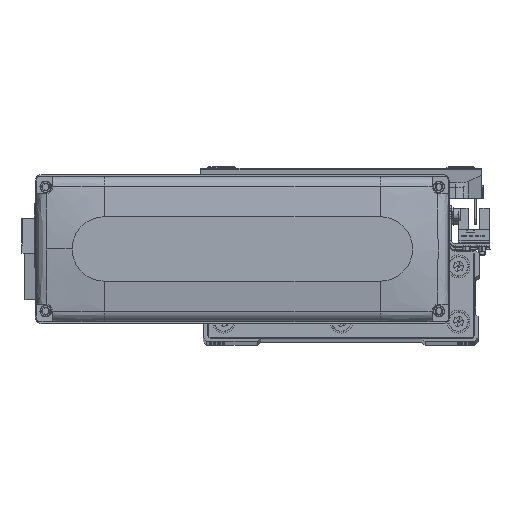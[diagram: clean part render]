
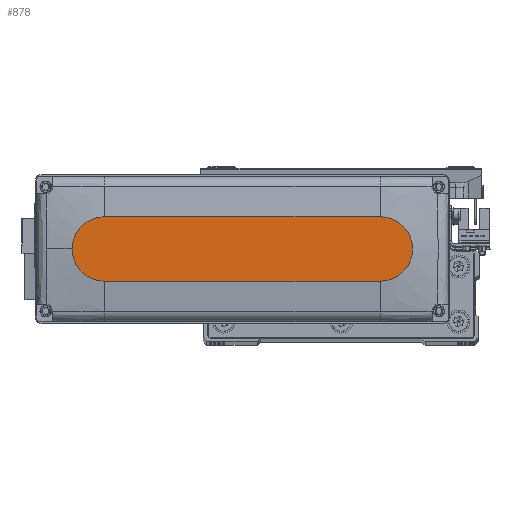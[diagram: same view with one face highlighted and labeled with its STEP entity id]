
A CAD part, top view. The second image highlights one B-rep face of the part: STEP entity #878.
In plain terms, the highlighted planar face has unit normal (0, 0, 1).
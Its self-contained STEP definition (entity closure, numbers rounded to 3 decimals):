
#339 = VERTEX_POINT ( 'NONE', #31980 ) ;
#878 = ADVANCED_FACE ( 'NONE', ( #43186 ), #9904, .T. ) ;
#1810 = VERTEX_POINT ( 'NONE', #7754 ) ;
#2678 = DIRECTION ( 'NONE',  ( 1., 0., 0. ) ) ;
#3308 = AXIS2_PLACEMENT_3D ( 'NONE', #30711, #23752, #38608 ) ;
#4615 = VERTEX_POINT ( 'NONE', #18644 ) ;
#5675 = EDGE_CURVE ( 'NONE', #4615, #1810, #14792, .T. ) ;
#7754 = CARTESIAN_POINT ( 'NONE',  ( 60., 14., 28.5 ) ) ;
#9904 = PLANE ( 'NONE',  #46043 ) ;
#10234 = CIRCLE ( 'NONE', #3308, 14. ) ;
#11250 = CARTESIAN_POINT ( 'NONE',  ( -60., 14., 28.5 ) ) ;
#11865 = ORIENTED_EDGE ( 'NONE', *, *, #40657, .T. ) ;
#12676 = CARTESIAN_POINT ( 'NONE',  ( -60., 14., 28.5 ) ) ;
#14290 = VECTOR ( 'NONE', #38334, 1000. ) ;
#14792 = CIRCLE ( 'NONE', #20175, 14. ) ;
#17046 = CARTESIAN_POINT ( 'NONE',  ( 0., 0., 28.5 ) ) ;
#17927 = CIRCLE ( 'NONE', #24043, 14. ) ;
#17971 = EDGE_CURVE ( 'NONE', #46895, #23126, #17927, .T. ) ;
#18644 = CARTESIAN_POINT ( 'NONE',  ( 74., 0., 28.5 ) ) ;
#19071 = ORIENTED_EDGE ( 'NONE', *, *, #5675, .T. ) ;
#20175 = AXIS2_PLACEMENT_3D ( 'NONE', #26433, #41315, #41070 ) ;
#21788 = ORIENTED_EDGE ( 'NONE', *, *, #45524, .T. ) ;
#22990 = LINE ( 'NONE', #12676, #14290 ) ;
#23126 = VERTEX_POINT ( 'NONE', #23337 ) ;
#23337 = CARTESIAN_POINT ( 'NONE',  ( -60., -14., 28.5 ) ) ;
#23752 = DIRECTION ( 'NONE',  ( 0., 0., 1. ) ) ;
#24043 = AXIS2_PLACEMENT_3D ( 'NONE', #46226, #46471, #32317 ) ;
#25605 = LINE ( 'NONE', #40486, #29556 ) ;
#26433 = CARTESIAN_POINT ( 'NONE',  ( 60., 0., 28.5 ) ) ;
#27602 = DIRECTION ( 'NONE',  ( 0., 0., 1. ) ) ;
#29556 = VECTOR ( 'NONE', #32333, 1000. ) ;
#30711 = CARTESIAN_POINT ( 'NONE',  ( 60., 0., 28.5 ) ) ;
#31980 = CARTESIAN_POINT ( 'NONE',  ( 60., -14., 28.5 ) ) ;
#32317 = DIRECTION ( 'NONE',  ( 1., 0., 0. ) ) ;
#32333 = DIRECTION ( 'NONE',  ( 1., 0., 0. ) ) ;
#37777 = EDGE_CURVE ( 'NONE', #339, #4615, #10234, .T. ) ;
#37904 = ORIENTED_EDGE ( 'NONE', *, *, #17971, .T. ) ;
#38334 = DIRECTION ( 'NONE',  ( -1., 0., 0. ) ) ;
#38608 = DIRECTION ( 'NONE',  ( 1., 0., 0. ) ) ;
#39445 = EDGE_LOOP ( 'NONE', ( #11865, #37904, #21788, #45494, #19071 ) ) ;
#40486 = CARTESIAN_POINT ( 'NONE',  ( -60., -14., 28.5 ) ) ;
#40657 = EDGE_CURVE ( 'NONE', #1810, #46895, #22990, .T. ) ;
#41070 = DIRECTION ( 'NONE',  ( 1., 0., 0. ) ) ;
#41315 = DIRECTION ( 'NONE',  ( 0., 0., 1. ) ) ;
#43186 = FACE_OUTER_BOUND ( 'NONE', #39445, .T. ) ;
#45494 = ORIENTED_EDGE ( 'NONE', *, *, #37777, .T. ) ;
#45524 = EDGE_CURVE ( 'NONE', #23126, #339, #25605, .T. ) ;
#46043 = AXIS2_PLACEMENT_3D ( 'NONE', #17046, #27602, #2678 ) ;
#46226 = CARTESIAN_POINT ( 'NONE',  ( -60., 0., 28.5 ) ) ;
#46471 = DIRECTION ( 'NONE',  ( 0., 0., 1. ) ) ;
#46895 = VERTEX_POINT ( 'NONE', #11250 ) ;
